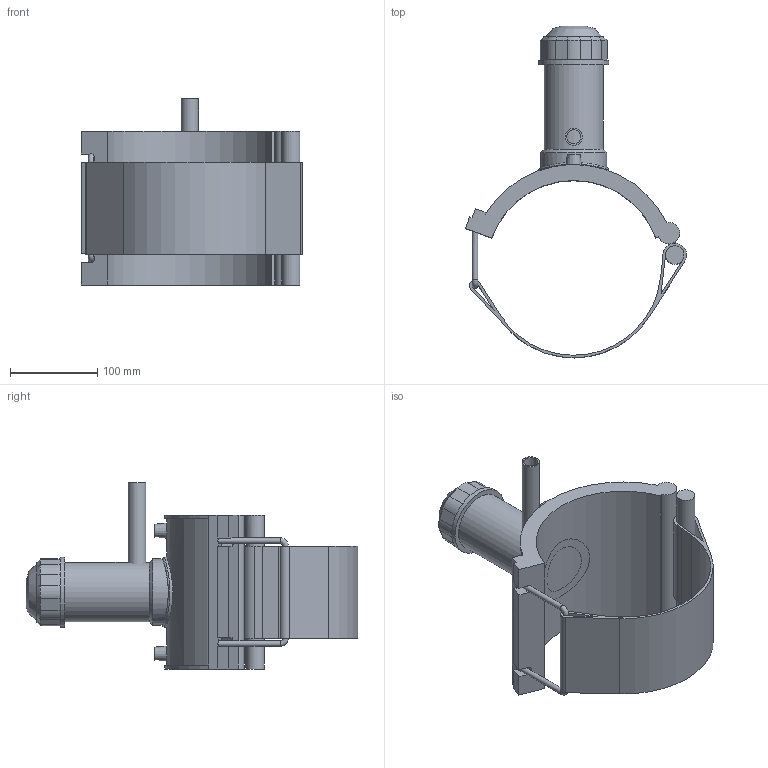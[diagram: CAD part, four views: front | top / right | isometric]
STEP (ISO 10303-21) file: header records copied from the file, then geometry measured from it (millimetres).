
FILE_DESCRIPTION(/* description */ (''),/* implementation_level */ '2;1');
FILE_NAME(/* name */ 'C:\Dropbox\KIMPROJECTS-Inventor 2019\99-16-3568-Processing\ElectroFusion Fittings\4963P4\stp\4963P4200020.stp',/* time_stamp */ '2022-03-17T11:31:30+02:00',/* author */ ('KIM'),/* organization */ (''),/* preprocessor_version */ 'ST-DEVELOPER v17.2',/* originating_system */ 'Autodesk Inventor 2019',/* authorisation */ '');
FILE_SCHEMA (('AUTOMOTIVE_DESIGN { 1 0 10303 214 3 1 1 }','FEATURE_BASED_PROCESS_PLANNING'));
Length unit declared in the file: millimetre
Products named in the file (1): 4963P4200020
Bounding box: 253.17 x 380 x 213 mm (x, y, z)
Volume: 1499864.4 mm3; surface area: 325820.7 mm2
Topology: 3 solids, 3 shells, 122 faces, 309 edges, 201 vertices
Faces by surface type: plane 69, cylinder 38, cone 11, torus 2, bspline 2
Full cylindrical faces by diameter (mm): 4 x2, 6.4 x2, 10 x2, 16 x1, 20 x1, 21.077 x1, 56 x1, 68 x1, 76 x1, 80 x2
Entity records: 4173 total; most frequent: CARTESIAN_POINT 1087, DIRECTION 653, ORIENTED_EDGE 620, EDGE_CURVE 310, AXIS2_PLACEMENT_3D 237, VERTEX_POINT 201, LINE 179, VECTOR 179
